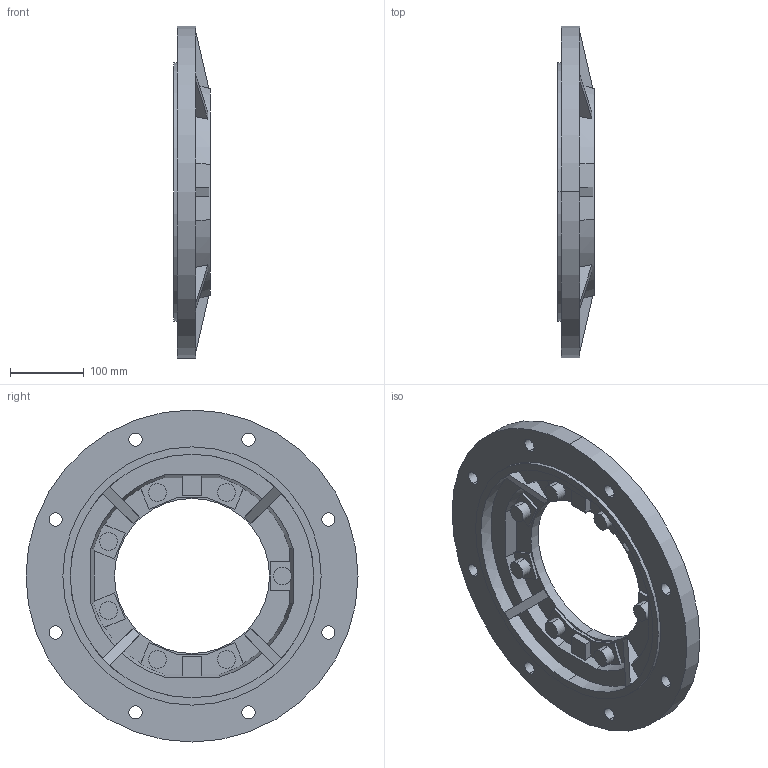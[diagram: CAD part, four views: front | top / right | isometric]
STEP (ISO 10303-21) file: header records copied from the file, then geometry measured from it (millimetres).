
FILE_DESCRIPTION(/* description */ (''),/* implementation_level */ '2;1');
FILE_NAME(/* name */ '2_FLANGIA (CAMPANA) LATERALE FB H142',/* time_stamp */ '2025-10-31T14:28:50+01:00',/* author */ (''),/* organization */ (''),/* preprocessor_version */ 'ST-DEVELOPER v19.2',/* originating_system */ 'Rhino 8.23',/* authorisation */ '');
FILE_SCHEMA (('CONFIG_CONTROL_DESIGN'));
Length unit declared in the file: millimetre
Products named in the file (2): Document; FU142FB-27
Bounding box: 50 x 450 x 450 mm (x, y, z)
Volume: 2814502.6 mm3; surface area: 374063.8 mm2
Topology: 1 solids, 1 shells, 142 faces, 393 edges, 262 vertices
Faces by surface type: plane 92, cylinder 38, bspline 12
Entity records: 6092 total; most frequent: CARTESIAN_POINT 1616, ORIENTED_EDGE 786, EDGE_CURVE 393, DIRECTION 368, B_SPLINE_CURVE_WITH_KNOTS 269, VERTEX_POINT 262, AXIS2_PLACEMENT_3D 249, EDGE_LOOP 169
